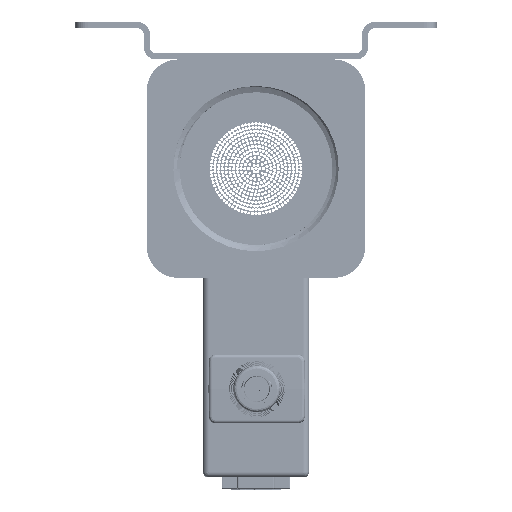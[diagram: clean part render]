
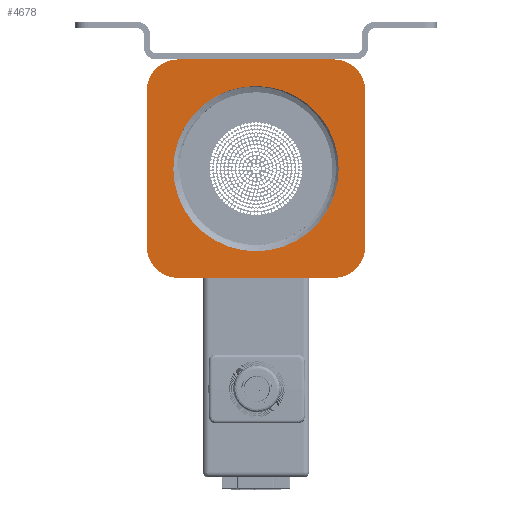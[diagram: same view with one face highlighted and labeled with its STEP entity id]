
A CAD part, front view. The second image highlights one B-rep face of the part: STEP entity #4678.
In plain terms, the highlighted planar face has unit normal (0, -1, 0).
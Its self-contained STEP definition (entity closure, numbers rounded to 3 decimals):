
#4678=ADVANCED_FACE('',(#13168,#13169),#7655,.T.);
#7655=PLANE('',#63771);
#8449=CIRCLE('',#63739,5.);
#8451=CIRCLE('',#63743,5.);
#8455=CIRCLE('',#63748,5.);
#8459=CIRCLE('',#63753,5.);
#8464=CIRCLE('',#63770,13.25);
#13168=FACE_BOUND('',#22347,.T.);
#13169=FACE_BOUND('',#22348,.T.);
#22347=EDGE_LOOP('',(#34385));
#22348=EDGE_LOOP('',(#34386,#34387,#34388,#34389,#34390,#34391,#34392,#34393));
#34385=ORIENTED_EDGE('',*,*,#53414,.T.);
#34386=ORIENTED_EDGE('',*,*,#53331,.T.);
#34387=ORIENTED_EDGE('',*,*,#53334,.T.);
#34388=ORIENTED_EDGE('',*,*,#53369,.T.);
#34389=ORIENTED_EDGE('',*,*,#53341,.T.);
#34390=ORIENTED_EDGE('',*,*,#53318,.T.);
#34391=ORIENTED_EDGE('',*,*,#53347,.T.);
#34392=ORIENTED_EDGE('',*,*,#53338,.T.);
#34393=ORIENTED_EDGE('',*,*,#53353,.T.);
#46690=VERTEX_POINT('',#93218);
#46692=VERTEX_POINT('',#93222);
#46703=VERTEX_POINT('',#93511);
#46705=VERTEX_POINT('',#93515);
#46707=VERTEX_POINT('',#93521);
#46709=VERTEX_POINT('',#93526);
#46711=VERTEX_POINT('',#93530);
#46713=VERTEX_POINT('',#93535);
#46762=VERTEX_POINT('',#93827);
#53318=EDGE_CURVE('',#46690,#46692,#60046,.T.);
#53331=EDGE_CURVE('',#46703,#46705,#60050,.T.);
#53334=EDGE_CURVE('',#46705,#46707,#8449,.T.);
#53338=EDGE_CURVE('',#46709,#46711,#60055,.T.);
#53341=EDGE_CURVE('',#46713,#46690,#8451,.T.);
#53347=EDGE_CURVE('',#46692,#46709,#8455,.T.);
#53353=EDGE_CURVE('',#46711,#46703,#8459,.T.);
#53369=EDGE_CURVE('',#46707,#46713,#60068,.T.);
#53414=EDGE_CURVE('',#46762,#46762,#8464,.T.);
#60046=LINE('',#93223,#61930);
#60050=LINE('',#93516,#61934);
#60055=LINE('',#93531,#61939);
#60068=LINE('',#93624,#61952);
#61930=VECTOR('',#73832,1.);
#61934=VECTOR('',#73852,1.);
#61939=VECTOR('',#73865,1.);
#61952=VECTOR('',#73906,1.);
#63739=AXIS2_PLACEMENT_3D('',#93522,#73858,#73859);
#63743=AXIS2_PLACEMENT_3D('',#93537,#73871,#73872);
#63748=AXIS2_PLACEMENT_3D('',#93548,#73883,#73884);
#63753=AXIS2_PLACEMENT_3D('',#93559,#73895,#73896);
#63770=AXIS2_PLACEMENT_3D('',#93826,#73975,#73976);
#63771=AXIS2_PLACEMENT_3D('',#93828,#73977,#73978);
#73832=DIRECTION('',(0.,0.,-1.));
#73852=DIRECTION('',(0.,0.,1.));
#73858=DIRECTION('',(0.,-1.,0.));
#73859=DIRECTION('',(-1.,0.,0.));
#73865=DIRECTION('',(1.,0.,0.));
#73871=DIRECTION('',(0.,-1.,0.));
#73872=DIRECTION('',(-1.,0.,0.));
#73883=DIRECTION('',(0.,-1.,0.));
#73884=DIRECTION('',(0.,0.,1.));
#73895=DIRECTION('',(0.,-1.,0.));
#73896=DIRECTION('',(-1.,0.,0.));
#73906=DIRECTION('',(-1.,0.,0.));
#73975=DIRECTION('',(0.,1.,0.));
#73976=DIRECTION('',(-1.,0.,0.));
#73977=DIRECTION('',(0.,-1.,0.));
#73978=DIRECTION('',(1.,0.,0.));
#93218=CARTESIAN_POINT('',(46.499,-42.252,34.805));
#93222=CARTESIAN_POINT('',(46.499,-42.252,9.805));
#93223=CARTESIAN_POINT('',(46.499,-42.252,32.305));
#93511=CARTESIAN_POINT('',(81.499,-42.252,9.805));
#93515=CARTESIAN_POINT('',(81.499,-42.252,34.805));
#93516=CARTESIAN_POINT('',(81.499,-42.252,32.305));
#93521=CARTESIAN_POINT('',(76.499,-42.252,39.805));
#93522=CARTESIAN_POINT('',(76.499,-42.252,34.805));
#93526=CARTESIAN_POINT('',(51.499,-42.252,4.805));
#93530=CARTESIAN_POINT('',(76.499,-42.252,4.805));
#93531=CARTESIAN_POINT('',(53.999,-42.252,4.805));
#93535=CARTESIAN_POINT('',(51.499,-42.252,39.805));
#93537=CARTESIAN_POINT('',(51.499,-42.252,34.805));
#93548=CARTESIAN_POINT('',(51.499,-42.252,9.805));
#93559=CARTESIAN_POINT('',(76.499,-42.252,9.805));
#93624=CARTESIAN_POINT('',(73.999,-42.252,39.805));
#93826=CARTESIAN_POINT('',(63.999,-42.252,22.305));
#93827=CARTESIAN_POINT('',(50.749,-42.252,22.305));
#93828=CARTESIAN_POINT('',(73.999,-42.252,32.305));
